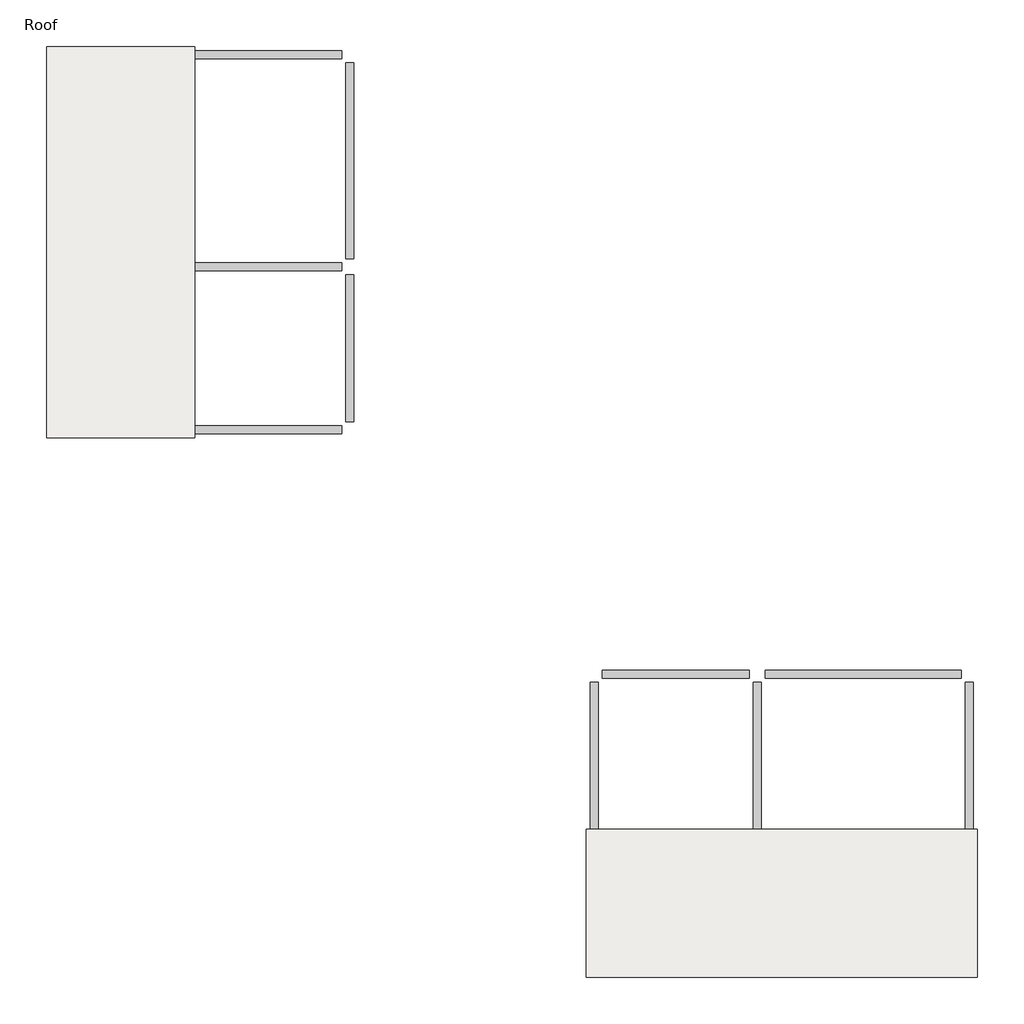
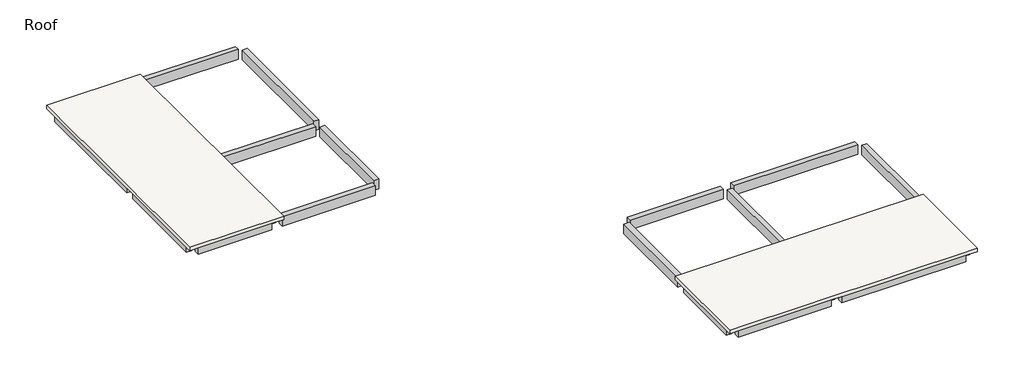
# One storey: 24 beams, 4 slabs.
"""IFC4 building model written with IfcOpenShell, lengths in millimetres."""

import ifcopenshell
import ifcopenshell.guid

model = None  # the IFC model being written
_history = None  # IfcOwnerHistory: only IFC2X3 demands one
_inside = {}  # id of a spatial element -> (the spatial element, [elements in it])
_under = {}  # id of a project, library or spatial element -> (it, [spatial elements below it])
_declared = {}  # id of a project -> (the project, [libraries it declares])
_typed = {}  # id of a type object -> (the type object, [elements of that type])
_made_of = {}  # id of a material, layer set ... -> (it, [elements and type objects made of it])


def new_model(schema):
    """Start an empty IFC model of exactly this schema.

    Asked for "IFC4X3", IfcOpenShell would pick the latest addendum, in which some entities
    have other attributes; the version numbers below select the first issue.
    IFC2X3 requires an IfcOwnerHistory on every rooted entity: one is made here for all.
    """
    global model, _history
    if schema == "IFC4X3":
        model = ifcopenshell.file(schema_version=(4, 3, 0, 0))
    else:
        model = ifcopenshell.file(schema=schema)
    _inside.clear()
    _under.clear()
    _declared.clear()
    _typed.clear()
    _made_of.clear()
    _history = None
    if model.schema == "IFC2X3":
        org = make("IfcOrganization", Name="unknown")
        user = make(
            "IfcPersonAndOrganization",
            ThePerson=make("IfcPerson", FamilyName="unknown"),
            TheOrganization=org,
        )
        app = make(
            "IfcApplication",
            ApplicationDeveloper=org,
            Version="unknown",
            ApplicationFullName="unknown",
            ApplicationIdentifier="unknown",
        )
        _history = make(
            "IfcOwnerHistory",
            OwningUser=user,
            OwningApplication=app,
            ChangeAction="ADDED",
            CreationDate=0,
        )
    return model


def make(cls, **values):
    """One entity of the class cls with the attributes given. An attribute that is None is left unset."""
    return model.create_entity(
        cls, **{name: value for name, value in values.items() if value is not None}
    )


def rooted(cls, **values):
    """An entity with a GlobalId (a new one), such as an element, a storey or a relation."""
    return make(cls, GlobalId=ifcopenshell.guid.new(), OwnerHistory=_history, **values)


def si_unit(unit_type, name, prefix=None):
    """IfcSIUnit, for example si_unit("LENGTHUNIT", "METRE", prefix="MILLI")."""
    return make("IfcSIUnit", UnitType=unit_type, Prefix=prefix, Name=name)


def assignment(units):
    """IfcUnitAssignment: the units of a project."""
    return None if units is None else make("IfcUnitAssignment", Units=units)


def point(xyz):
    """IfcCartesianPoint."""
    return None if xyz is None else make("IfcCartesianPoint", Coordinates=xyz)


def direction(xyz):
    """IfcDirection."""
    return None if xyz is None else make("IfcDirection", DirectionRatios=xyz)


def frame(location, z_axis=None, x_axis=None):
    """IfcAxis2Placement3D, a coordinate frame: its origin and axes. An axis left out is left unset."""
    return make(
        "IfcAxis2Placement3D",
        Location=point(location),
        Axis=direction(z_axis),
        RefDirection=direction(x_axis),
    )


def origin():
    """The frame at (0, 0, 0) with its axes left unset."""
    return frame((0.0, 0.0, 0.0))


def place(relative_to, where):
    """IfcLocalPlacement: puts the frame where relative to a parent placement (None: the world)."""
    return make(
        "IfcLocalPlacement", PlacementRelTo=relative_to, RelativePlacement=where
    )


def context(
    kind, dimensions, precision=None, world=None, true_north=None, identifier=None
):
    """IfcGeometricRepresentationContext, for example the 3D "Model" context."""
    return make(
        "IfcGeometricRepresentationContext",
        ContextIdentifier=identifier,
        ContextType=kind,
        CoordinateSpaceDimension=dimensions,
        Precision=precision,
        WorldCoordinateSystem=world,
        TrueNorth=true_north,
    )


def project(units=None, contexts=None):
    """IfcProject with its units and contexts."""
    return rooted(
        "IfcProject",
        Name="project",
        RepresentationContexts=contexts,
        UnitsInContext=assignment(units),
    )


def spatial(cls, under=None, at=None, **own):
    """A site, building, storey or space (cls), placed at a placement, below another one or the project."""
    s = rooted(cls, ObjectPlacement=at, **own)
    if under is not None:
        _under.setdefault(under.id(), (under, []))[1].append(s)
    return s


def polyline(points):
    """IfcPolyline through the points."""
    return make("IfcPolyline", Points=[point(p) for p in points])


def outline(outer, holes=None, kind="AREA"):
    """IfcArbitraryClosedProfileDef: a profile drawn as a closed curve; with holes, ...WithVoids."""
    if holes is None:
        return make("IfcArbitraryClosedProfileDef", ProfileType=kind, OuterCurve=outer)
    return make(
        "IfcArbitraryProfileDefWithVoids",
        ProfileType=kind,
        OuterCurve=outer,
        InnerCurves=holes,
    )


def extrude(swept, where, along, depth):
    """IfcExtrudedAreaSolid: the profile swept, set in the frame where, extruded along a direction by depth."""
    return make(
        "IfcExtrudedAreaSolid",
        SweptArea=swept,
        Position=where,
        ExtrudedDirection=direction(along),
        Depth=depth,
    )


def faces_of(points, faces, orient=None, outer=None):
    """IfcFace entities. A face is a list of loops; a loop is a list of indices into points, from 0.

    orient and outer hold one flag for each loop. By default every Orientation is true, the
    first loop of a face is its IfcFaceOuterBound and the others are IfcFaceBound.
    """
    made = []
    for i, loops in enumerate(faces):
        bounds = []
        for j, loop in enumerate(loops):
            is_outer = j == 0 if outer is None else outer[i][j]
            bounds.append(
                make(
                    "IfcFaceOuterBound" if is_outer else "IfcFaceBound",
                    Bound=make("IfcPolyLoop", Polygon=[points[k] for k in loop]),
                    Orientation=True if orient is None else orient[i][j],
                )
            )
        made.append(make("IfcFace", Bounds=bounds))
    return made


def faceted_brep(points, faces, orient=None, outer=None, voids=None):
    """IfcFacetedBrep: a solid bounded by flat faces; with voids (closed shells), ...WithVoids."""
    shared = [point(p) for p in points]
    hull = make("IfcClosedShell", CfsFaces=faces_of(shared, faces, orient, outer))
    if voids is None:
        return make("IfcFacetedBrep", Outer=hull)
    return make(
        "IfcFacetedBrepWithVoids",
        Outer=hull,
        Voids=[
            make(cls, CfsFaces=faces_of(shared, fs, o, b)) for cls, fs, o, b in voids
        ],
    )


def shape(context_of_items, identifier, shape_type, items):
    """IfcShapeRepresentation: the items that make up one representation, for example the "Body"."""
    return make(
        "IfcShapeRepresentation",
        ContextOfItems=context_of_items,
        RepresentationIdentifier=identifier,
        RepresentationType=shape_type,
        Items=items,
    )


def made_of(thing, what):
    """Note that an element or type object is made of a material, layer set ...; save() writes the relation."""
    if what is not None:
        _made_of.setdefault(what.id(), (what, []))[1].append(thing)
    return thing


def element(
    cls,
    number,
    at=None,
    inside=None,
    cuts=None,
    type_object=None,
    material=None,
    context=None,
    identifier="Body",
    shape_type=None,
    held_by="IfcProductDefinitionShape",
    body=None,
    shapes=None,
    **own,
):
    """One element of the class cls, such as IfcWall. Its Tag is "e" and its number.

    at: its placement. inside: the storey or other place that contains it. cuts: it is an
    opening in that element (IfcRelVoidsElement). A single representation is given by context,
    identifier, shape_type and body (its items); several are given by shapes. held_by: the class
    of the entity that holds the representations. save() writes the other relations.
    """
    e = rooted(cls, Tag="e%d" % number, ObjectPlacement=at, **own)
    if body is not None:
        shapes = [shape(context, identifier, shape_type, body)]
    if shapes is not None:
        e.Representation = make(held_by, Representations=shapes)
    if inside is not None:
        _inside.setdefault(inside.id(), (inside, []))[1].append(e)
    if cuts is not None:
        rooted(
            "IfcRelVoidsElement", RelatingBuildingElement=cuts, RelatedOpeningElement=e
        )
    if type_object is not None:
        _typed.setdefault(type_object.id(), (type_object, []))[1].append(e)
    return made_of(e, material)


def aggregate(whole, parts):
    """IfcRelAggregates: a whole, such as a stair, and the parts it consists of."""
    return rooted("IfcRelAggregates", RelatingObject=whole, RelatedObjects=parts)


def save(model, path):
    """Write the relations noted so far, then the file.

    IfcRelAggregates (storeys below a building ...), IfcRelContainedInSpatialStructure (elements
    in a storey), IfcRelDefinesByType, IfcRelAssociatesMaterial and IfcRelDeclares: one each for
    every whole, place, type object, material and project.
    """
    for whole, parts in _under.values():
        aggregate(whole, parts)
    for where, things in _inside.values():
        rooted(
            "IfcRelContainedInSpatialStructure",
            RelatedElements=things,
            RelatingStructure=where,
        )
    for kind, things in _typed.values():
        rooted("IfcRelDefinesByType", RelatedObjects=things, RelatingType=kind)
    for what, things in _made_of.values():
        rooted("IfcRelAssociatesMaterial", RelatedObjects=things, RelatingMaterial=what)
    for by, libraries in _declared.values():
        rooted("IfcRelDeclares", RelatingContext=by, RelatedDefinitions=libraries)
    model.write(path)


model = new_model("IFC4")

# Units and contexts
model_context = context("Model", 3, world=origin())
ifc_project = project(units=[si_unit("LENGTHUNIT", "METRE", prefix="MILLI")], contexts=[model_context])

# Site, building, storey
site = spatial("IfcSite", under=ifc_project)
building = spatial("IfcBuilding", under=site)
storey = spatial("IfcBuildingStorey", under=building, Name="Roof", Elevation=7315.0)

# Beams
placement = place(None, origin())
element("IfcBeam", 1, ObjectType="M_Concrete-Rectangular Beam : 300 x 600mm", at=placement, inside=storey, context=model_context, shape_type="SweptSolid", body=[
    extrude(outline(polyline([(-16304.9035319, 4112.1636035), (-16304.9035319, 4412.1636035), (-10808.9035319, 4412.1636035), (-10808.9035319, 4112.1636035), (-16304.9035319, 4112.1636035)])), frame((0.0, 0.0, 6715.0), z_axis=(0.0, 0.0, 1.0), x_axis=(1.0, 0.0, 0.0)), (0.0, 0.0, 1.0), 600.0),
])
element("IfcBeam", 2, ObjectType="M_Concrete-Rectangular Beam : 300 x 600mm", at=placement, inside=storey, context=model_context, shape_type="SweptSolid", body=[
    extrude(outline(polyline([(-21244.300634, 4112.1636035), (-21244.300634, 4412.1636035), (-16904.9035319, 4412.1636035), (-16904.9035319, 4112.1636035), (-21244.300634, 4112.1636035)])), frame((0.0, 0.0, 6715.0), z_axis=(0.0, 0.0, 1.0), x_axis=(1.0, 0.0, 0.0)), (0.0, 0.0, 1.0), 510.0),
])
element("IfcBeam", 3, ObjectType="M_Concrete-Rectangular Beam : 300 x 600mm", at=placement, inside=storey, context=model_context, shape_type="SweptSolid", body=[
    extrude(outline(polyline([(-16304.9035319, -3812.8363965), (-16304.9035319, -3512.8363965), (-10808.9035319, -3512.8363965), (-10808.9035319, -3812.8363965), (-16304.9035319, -3812.8363965)])), frame((0.0, 0.0, 6715.0), z_axis=(0.0, 0.0, 1.0), x_axis=(1.0, 0.0, 0.0)), (0.0, 0.0, 1.0), 600.0),
])
element("IfcBeam", 4, ObjectType="M_Concrete-Rectangular Beam : 300 x 600mm", at=placement, inside=storey, context=model_context, shape_type="SweptSolid", body=[
    extrude(outline(polyline([(-21244.300634, -3812.8363965), (-21244.300634, -3512.8363965), (-16904.9035319, -3512.8363965), (-16904.9035319, -3812.8363965), (-21244.300634, -3812.8363965)])), frame((0.0, 0.0, 6715.0), z_axis=(0.0, 0.0, 1.0), x_axis=(1.0, 0.0, 0.0)), (0.0, 0.0, 1.0), 510.0),
])
element("IfcBeam", 5, ObjectType="M_Concrete-Rectangular Beam : 300 x 600mm", at=placement, inside=storey, context=model_context, shape_type="SweptSolid", body=[
    extrude(outline(polyline([(-16304.9035319, -9908.8363965), (-16304.9035319, -9608.8363965), (-10808.9035319, -9608.8363965), (-10808.9035319, -9908.8363965), (-16304.9035319, -9908.8363965)])), frame((0.0, 0.0, 6715.0), z_axis=(0.0, 0.0, 1.0), x_axis=(1.0, 0.0, 0.0)), (0.0, 0.0, 1.0), 600.0),
])
element("IfcBeam", 6, ObjectType="M_Concrete-Rectangular Beam : 300 x 600mm", at=placement, inside=storey, context=model_context, shape_type="SweptSolid", body=[
    extrude(outline(polyline([(-21244.300634, -9908.8363965), (-21244.300634, -9608.8363965), (-16904.9035319, -9608.8363965), (-16904.9035319, -9908.8363965), (-21244.300634, -9908.8363965)])), frame((0.0, 0.0, 6715.0), z_axis=(0.0, 0.0, 1.0), x_axis=(1.0, 0.0, 0.0)), (0.0, 0.0, 1.0), 510.0),
])
element("IfcBeam", 7, ObjectType="M_Concrete-Rectangular Beam : 300 x 600mm", at=placement, inside=storey, context=model_context, shape_type="SweptSolid", body=[
    extrude(outline(polyline([(-21394.300634, -3362.8363965), (-21694.300634, -3362.8363965), (-21694.300634, 3962.1636035), (-21394.300634, 3962.1636035), (-21394.300634, -3362.8363965)])), frame((0.0, 0.0, 6715.0), z_axis=(0.0, 0.0, 1.0), x_axis=(1.0, 0.0, 0.0)), (0.0, 0.0, 1.0), 510.0),
])
element("IfcBeam", 8, ObjectType="M_Concrete-Rectangular Beam : 300 x 600mm", at=placement, inside=storey, context=model_context, shape_type="SweptSolid", body=[
    extrude(outline(polyline([(-21394.300634, -9458.8363965), (-21694.300634, -9458.8363965), (-21694.300634, -3962.8363965), (-21394.300634, -3962.8363965), (-21394.300634, -9458.8363965)])), frame((0.0, 0.0, 6715.0), z_axis=(0.0, 0.0, 1.0), x_axis=(1.0, 0.0, 0.0)), (0.0, 0.0, 1.0), 510.0),
])
element("IfcBeam", 9, ObjectType="M_Concrete-Rectangular Beam : 300 x 600mm", at=placement, inside=storey, context=model_context, shape_type="SweptSolid", body=[
    extrude(outline(polyline([(-16454.9035319, -9458.8363965), (-16754.9035319, -9458.8363965), (-16754.9035319, -3962.8363965), (-16454.9035319, -3962.8363965), (-16454.9035319, -9458.8363965)])), frame((0.0, 0.0, 6715.0), z_axis=(0.0, 0.0, 1.0), x_axis=(1.0, 0.0, 0.0)), (0.0, 0.0, 1.0), 510.0),
])
element("IfcBeam", 10, ObjectType="M_Concrete-Rectangular Beam : 300 x 600mm", at=placement, inside=storey, context=model_context, shape_type="SweptSolid", body=[
    extrude(outline(polyline([(-16454.9035319, -3362.8363965), (-16754.9035319, -3362.8363965), (-16754.9035319, 3962.1636035), (-16454.9035319, 3962.1636035), (-16454.9035319, -3362.8363965)])), frame((0.0, 0.0, 6715.0), z_axis=(0.0, 0.0, 1.0), x_axis=(1.0, 0.0, 0.0)), (0.0, 0.0, 1.0), 510.0),
])
element("IfcBeam", 11, ObjectType="M_Concrete-Rectangular Beam : 300 x 600mm", at=placement, inside=storey, context=model_context, shape_type="SweptSolid", body=[
    extrude(outline(polyline([(-10358.9035319, -9458.8363965), (-10658.9035319, -9458.8363965), (-10658.9035319, -3962.8363965), (-10358.9035319, -3962.8363965), (-10358.9035319, -9458.8363965)])), frame((0.0, 0.0, 6715.0), z_axis=(0.0, 0.0, 1.0), x_axis=(1.0, 0.0, 0.0)), (0.0, 0.0, 1.0), 600.0),
])
element("IfcBeam", 12, ObjectType="M_Concrete-Rectangular Beam : 300 x 600mm", at=placement, inside=storey, context=model_context, shape_type="SweptSolid", body=[
    extrude(outline(polyline([(-10358.9035319, -3362.8363965), (-10658.9035319, -3362.8363965), (-10658.9035319, 3962.1636035), (-10358.9035319, 3962.1636035), (-10358.9035319, -3362.8363965)])), frame((0.0, 0.0, 6715.0), z_axis=(0.0, 0.0, 1.0), x_axis=(1.0, 0.0, 0.0)), (0.0, 0.0, 1.0), 600.0),
])
element("IfcBeam", 13, ObjectType="M_Concrete-Rectangular Beam : 300 x 600mm", at=placement, inside=storey, context=model_context, shape_type="SweptSolid", body=[
    extrude(outline(polyline([(12806.0964681, -24698.8363965), (12506.0964681, -24698.8363965), (12506.0964681, -19202.8363965), (12806.0964681, -19202.8363965), (12806.0964681, -24698.8363965)])), frame((0.0, 0.0, 6715.0), z_axis=(0.0, 0.0, 1.0), x_axis=(1.0, 0.0, 0.0)), (0.0, 0.0, 1.0), 600.0),
])
element("IfcBeam", 14, ObjectType="M_Concrete-Rectangular Beam : 300 x 600mm", at=placement, inside=storey, context=model_context, shape_type="SweptSolid", body=[
    extrude(outline(polyline([(12806.0964681, -29638.2334986), (12506.0964681, -29638.2334986), (12506.0964681, -25298.8363965), (12806.0964681, -25298.8363965), (12806.0964681, -29638.2334986)])), frame((0.0, 0.0, 6715.0), z_axis=(0.0, 0.0, 1.0), x_axis=(1.0, 0.0, 0.0)), (0.0, 0.0, 1.0), 510.0),
])
element("IfcBeam", 15, ObjectType="M_Concrete-Rectangular Beam : 300 x 600mm", at=placement, inside=storey, context=model_context, shape_type="SweptSolid", body=[
    extrude(outline(polyline([(4881.0964681, -24698.8363965), (4581.0964681, -24698.8363965), (4581.0964681, -19202.8363965), (4881.0964681, -19202.8363965), (4881.0964681, -24698.8363965)])), frame((0.0, 0.0, 6715.0), z_axis=(0.0, 0.0, 1.0), x_axis=(1.0, 0.0, 0.0)), (0.0, 0.0, 1.0), 600.0),
])
element("IfcBeam", 16, ObjectType="M_Concrete-Rectangular Beam : 300 x 600mm", at=placement, inside=storey, context=model_context, shape_type="SweptSolid", body=[
    extrude(outline(polyline([(4881.0964681, -29638.2334986), (4581.0964681, -29638.2334986), (4581.0964681, -25298.8363965), (4881.0964681, -25298.8363965), (4881.0964681, -29638.2334986)])), frame((0.0, 0.0, 6715.0), z_axis=(0.0, 0.0, 1.0), x_axis=(1.0, 0.0, 0.0)), (0.0, 0.0, 1.0), 510.0),
])
element("IfcBeam", 17, ObjectType="M_Concrete-Rectangular Beam : 300 x 600mm", at=placement, inside=storey, context=model_context, shape_type="SweptSolid", body=[
    extrude(outline(polyline([(-1214.9035319, -24698.8363965), (-1514.9035319, -24698.8363965), (-1514.9035319, -19202.8363965), (-1214.9035319, -19202.8363965), (-1214.9035319, -24698.8363965)])), frame((0.0, 0.0, 6715.0), z_axis=(0.0, 0.0, 1.0), x_axis=(1.0, 0.0, 0.0)), (0.0, 0.0, 1.0), 600.0),
])
element("IfcBeam", 18, ObjectType="M_Concrete-Rectangular Beam : 300 x 600mm", at=placement, inside=storey, context=model_context, shape_type="SweptSolid", body=[
    extrude(outline(polyline([(-1214.9035319, -29638.2334986), (-1514.9035319, -29638.2334986), (-1514.9035319, -25298.8363965), (-1214.9035319, -25298.8363965), (-1214.9035319, -29638.2334986)])), frame((0.0, 0.0, 6715.0), z_axis=(0.0, 0.0, 1.0), x_axis=(1.0, 0.0, 0.0)), (0.0, 0.0, 1.0), 510.0),
])
element("IfcBeam", 19, ObjectType="M_Concrete-Rectangular Beam : 300 x 600mm", at=placement, inside=storey, context=model_context, shape_type="SweptSolid", body=[
    extrude(outline(polyline([(5031.0964681, -30088.2334986), (5031.0964681, -29788.2334986), (12356.0964681, -29788.2334986), (12356.0964681, -30088.2334986), (5031.0964681, -30088.2334986)])), frame((0.0, 0.0, 6715.0), z_axis=(0.0, 0.0, 1.0), x_axis=(1.0, 0.0, 0.0)), (0.0, 0.0, 1.0), 510.0),
])
element("IfcBeam", 20, ObjectType="M_Concrete-Rectangular Beam : 300 x 600mm", at=placement, inside=storey, context=model_context, shape_type="SweptSolid", body=[
    extrude(outline(polyline([(-1064.9035319, -30088.2334986), (-1064.9035319, -29788.2334986), (4431.0964681, -29788.2334986), (4431.0964681, -30088.2334986), (-1064.9035319, -30088.2334986)])), frame((0.0, 0.0, 6715.0), z_axis=(0.0, 0.0, 1.0), x_axis=(1.0, 0.0, 0.0)), (0.0, 0.0, 1.0), 510.0),
])
element("IfcBeam", 21, ObjectType="M_Concrete-Rectangular Beam : 300 x 600mm", at=placement, inside=storey, context=model_context, shape_type="SweptSolid", body=[
    extrude(outline(polyline([(-1064.9035319, -25148.8363965), (-1064.9035319, -24848.8363965), (4431.0964681, -24848.8363965), (4431.0964681, -25148.8363965), (-1064.9035319, -25148.8363965)])), frame((0.0, 0.0, 6715.0), z_axis=(0.0, 0.0, 1.0), x_axis=(1.0, 0.0, 0.0)), (0.0, 0.0, 1.0), 510.0),
])
element("IfcBeam", 22, ObjectType="M_Concrete-Rectangular Beam : 300 x 600mm", at=placement, inside=storey, context=model_context, shape_type="SweptSolid", body=[
    extrude(outline(polyline([(5031.0964681, -25148.8363965), (5031.0964681, -24848.8363965), (12356.0964681, -24848.8363965), (12356.0964681, -25148.8363965), (5031.0964681, -25148.8363965)])), frame((0.0, 0.0, 6715.0), z_axis=(0.0, 0.0, 1.0), x_axis=(1.0, 0.0, 0.0)), (0.0, 0.0, 1.0), 510.0),
])
element("IfcBeam", 23, ObjectType="M_Concrete-Rectangular Beam : 300 x 600mm", at=placement, inside=storey, context=model_context, shape_type="SweptSolid", body=[
    extrude(outline(polyline([(-1064.9035319, -19052.8363965), (-1064.9035319, -18752.8363965), (4431.0964681, -18752.8363965), (4431.0964681, -19052.8363965), (-1064.9035319, -19052.8363965)])), frame((0.0, 0.0, 6715.0), z_axis=(0.0, 0.0, 1.0), x_axis=(1.0, 0.0, 0.0)), (0.0, 0.0, 1.0), 600.0),
])
element("IfcBeam", 24, ObjectType="M_Concrete-Rectangular Beam : 300 x 600mm", at=placement, inside=storey, context=model_context, shape_type="SweptSolid", body=[
    extrude(outline(polyline([(5031.0964681, -19052.8363965), (5031.0964681, -18752.8363965), (12356.0964681, -18752.8363965), (12356.0964681, -19052.8363965), (5031.0964681, -19052.8363965)])), frame((0.0, 0.0, 6715.0), z_axis=(0.0, 0.0, 1.0), x_axis=(1.0, 0.0, 0.0)), (0.0, 0.0, 1.0), 600.0),
])

# Slabs
element("IfcSlab", 25, ObjectType="160mm Concrete With 50mm Metal Deck", at=placement, inside=storey, context=model_context, shape_type="Brep", body=[
    faceted_brep([(-16304.9035319, 4562.1636035, 7225.0), (-16304.9035319, 3962.1636035, 7225.0), (-16304.9035319, -3362.8363965, 7225.0), (-16304.9035319, -3962.8363965, 7225.0), (-16304.9035319, -9458.8363965, 7225.0), (-16304.9035319, -10058.8363965, 7225.0), (-16904.9035319, -10058.8363965, 7225.0), (-21244.300634, -10058.8363965, 7225.0), (-21844.300634, -10058.8363965, 7225.0), (-21844.300634, -9458.8363965, 7225.0), (-21844.300634, -3962.8363965, 7225.0), (-21844.300634, -3362.8363965, 7225.0), (-21844.300634, 3962.1636035, 7225.0), (-21844.300634, 4562.1636035, 7225.0), (-21244.300634, 4562.1636035, 7225.0), (-16904.9035319, 4562.1636035, 7225.0), (-16304.9035319, 4562.1636035, 7435.0), (-21844.300634, 4562.1636035, 7435.0), (-21844.300634, -10058.8363965, 7435.0), (-16304.9035319, -10058.8363965, 7435.0)], [[[0, 1, 2, 3, 4, 5, 6, 7, 8, 9, 10, 11, 12, 13, 14, 15]], [[16, 17, 18, 19]], [[5, 4, 3, 2, 1, 0, 16, 19]], [[8, 7, 6, 5, 19, 18]], [[13, 12, 11, 10, 9, 8, 18, 17]], [[0, 15, 14, 13, 17, 16]]]),
])
element("IfcSlab", 26, ObjectType="160mm Concrete With 50mm Metal Deck", at=placement, inside=storey, context=model_context, shape_type="Brep", body=[
    faceted_brep([(-16304.9035319, 4562.1636035, 7225.0), (-16304.9035319, 3962.1636035, 7225.0), (-16304.9035319, -3362.8363965, 7225.0), (-16304.9035319, -3962.8363965, 7225.0), (-16304.9035319, -9458.8363965, 7225.0), (-16304.9035319, -10058.8363965, 7225.0), (-16904.9035319, -10058.8363965, 7225.0), (-21244.300634, -10058.8363965, 7225.0), (-21844.300634, -10058.8363965, 7225.0), (-21844.300634, -9458.8363965, 7225.0), (-21844.300634, -3962.8363965, 7225.0), (-21844.300634, -3362.8363965, 7225.0), (-21844.300634, 3962.1636035, 7225.0), (-21844.300634, 4562.1636035, 7225.0), (-21244.300634, 4562.1636035, 7225.0), (-16904.9035319, 4562.1636035, 7225.0), (-16304.9035319, 4562.1636035, 7435.0), (-21844.300634, 4562.1636035, 7435.0), (-21844.300634, -10058.8363965, 7435.0), (-16304.9035319, -10058.8363965, 7435.0)], [[[0, 1, 2, 3, 4, 5, 6, 7, 8, 9, 10, 11, 12, 13, 14, 15]], [[16, 17, 18, 19]], [[5, 4, 3, 2, 1, 0, 16, 19]], [[8, 7, 6, 5, 19, 18]], [[13, 12, 11, 10, 9, 8, 18, 17]], [[0, 15, 14, 13, 17, 16]]]),
])
element("IfcSlab", 27, ObjectType="160mm Concrete With 50mm Metal Deck", at=placement, inside=storey, context=model_context, shape_type="Brep", body=[
    faceted_brep([(12956.0964681, -24698.8363965, 7225.0), (12956.0964681, -25298.8363965, 7225.0), (12956.0964681, -29638.2334986, 7225.0), (12956.0964681, -30238.2334986, 7225.0), (12356.0964681, -30238.2334986, 7225.0), (5031.0964681, -30238.2334986, 7225.0), (4431.0964681, -30238.2334986, 7225.0), (-1064.9035319, -30238.2334986, 7225.0), (-1664.9035319, -30238.2334986, 7225.0), (-1664.9035319, -29638.2334986, 7225.0), (-1664.9035319, -25298.8363965, 7225.0), (-1664.9035319, -24698.8363965, 7225.0), (-1064.9035319, -24698.8363965, 7225.0), (4431.0964681, -24698.8363965, 7225.0), (5031.0964681, -24698.8363965, 7225.0), (12356.0964681, -24698.8363965, 7225.0), (12956.0964681, -24698.8363965, 7435.0), (-1664.9035319, -24698.8363965, 7435.0), (-1664.9035319, -30238.2334986, 7435.0), (12956.0964681, -30238.2334986, 7435.0)], [[[0, 1, 2, 3, 4, 5, 6, 7, 8, 9, 10, 11, 12, 13, 14, 15]], [[16, 17, 18, 19]], [[0, 15, 14, 13, 12, 11, 17, 16]], [[11, 10, 9, 8, 18, 17]], [[8, 7, 6, 5, 4, 3, 19, 18]], [[3, 2, 1, 0, 16, 19]]]),
])
element("IfcSlab", 28, ObjectType="160mm Concrete With 50mm Metal Deck", at=placement, inside=storey, context=model_context, shape_type="Brep", body=[
    faceted_brep([(12956.0964681, -24698.8363965, 7225.0), (12956.0964681, -25298.8363965, 7225.0), (12956.0964681, -29638.2334986, 7225.0), (12956.0964681, -30238.2334986, 7225.0), (12356.0964681, -30238.2334986, 7225.0), (5031.0964681, -30238.2334986, 7225.0), (4431.0964681, -30238.2334986, 7225.0), (-1064.9035319, -30238.2334986, 7225.0), (-1664.9035319, -30238.2334986, 7225.0), (-1664.9035319, -29638.2334986, 7225.0), (-1664.9035319, -25298.8363965, 7225.0), (-1664.9035319, -24698.8363965, 7225.0), (-1064.9035319, -24698.8363965, 7225.0), (4431.0964681, -24698.8363965, 7225.0), (5031.0964681, -24698.8363965, 7225.0), (12356.0964681, -24698.8363965, 7225.0), (12956.0964681, -24698.8363965, 7435.0), (-1664.9035319, -24698.8363965, 7435.0), (-1664.9035319, -30238.2334986, 7435.0), (12956.0964681, -30238.2334986, 7435.0)], [[[0, 1, 2, 3, 4, 5, 6, 7, 8, 9, 10, 11, 12, 13, 14, 15]], [[16, 17, 18, 19]], [[0, 15, 14, 13, 12, 11, 17, 16]], [[11, 10, 9, 8, 18, 17]], [[8, 7, 6, 5, 4, 3, 19, 18]], [[3, 2, 1, 0, 16, 19]]]),
])

save(model, "model.ifc")
